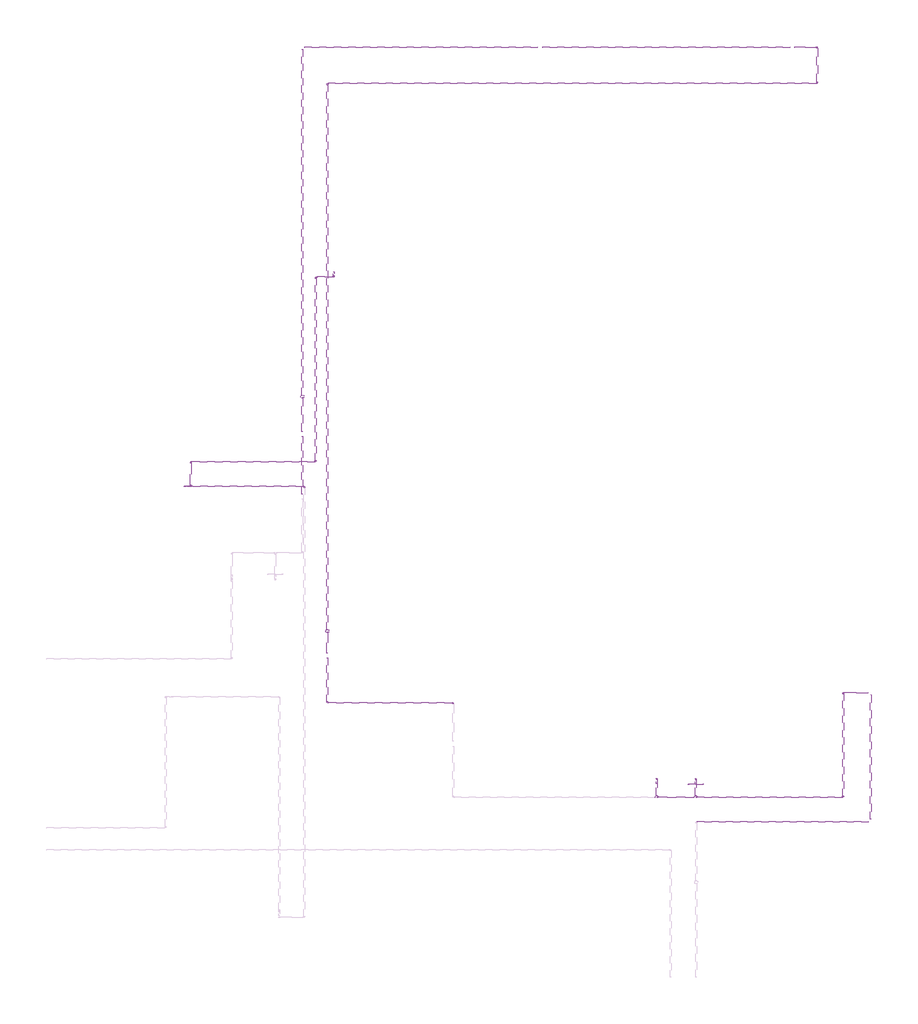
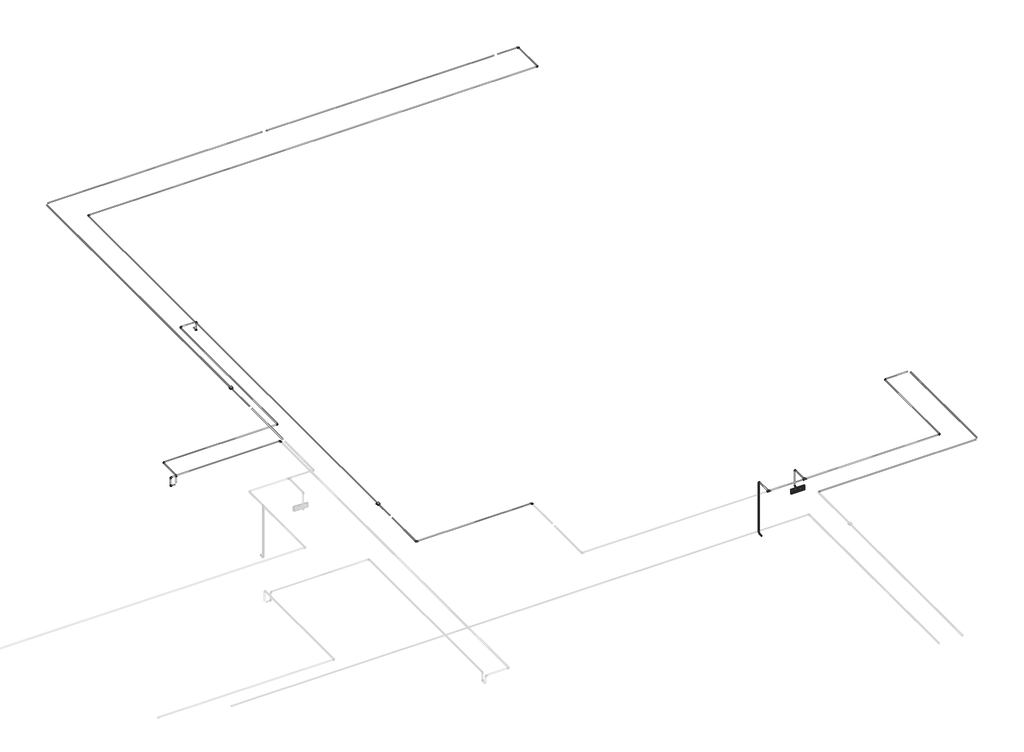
# One storey, part 6 of 6: 35 cable carrier segments, 23 cable carrier fittings, 3 alarms.
"""IFC4 building model written with IfcOpenShell, lengths in millimetres."""

from ifc_helpers import new_model, si_unit, point, frame, frame_2d, origin, place, context, project, spatial, circle_curve, trimmed, segment, composite_curve, outline, extrude, transform, mapped, element, save
from components import alarm_4b7e8fd8, alarm_a2247946, cable_carrier_fitting_69f1a801, cable_carrier_fitting_4e46bb0d, cable_carrier_fitting_7a8e629b, cable_carrier_fitting_8fd13dfc

model = new_model("IFC4")

# Units and contexts
model_context = context("Model", 3, world=origin())
ifc_project = project(units=[si_unit("LENGTHUNIT", "METRE", prefix="MILLI")], contexts=[model_context])

# Site, building, storey
site = spatial("IfcSite", under=ifc_project)
building = spatial("IfcBuilding", under=site)
storey = spatial("IfcBuildingStorey", under=building, Name="Подвальный этаж", Elevation=-3000.0)

# Alarms
placement = place(None, origin())
alarm_shape = alarm_4b7e8fd8(model_context)
element("IfcAlarm", 1, ObjectType="RBZ_Оповещатель_Световой_Рубеж_ОПОП1-R3(грань) : ОПОП 1-R3 \"Выход\"", at=placement, inside=storey, context=model_context, shape_type="MappedRepresentation", body=[
    mapped(alarm_shape, transform((15620.1759979, 2464.6370105, -700.0), x_axis=(1.0, 0.0, 0.0), y_axis=(0.0, 0.0, 1.0), z_axis=(0.0, -1.0, 0.0))),
])
alarm_2_shape = alarm_a2247946(model_context)
element("IfcAlarm", 2, ObjectType="RBZ_ИзоляторШлейфа_Рубеж_ИЗ-1_прот.R3(плоскость) : ИЗ-1 прот.R3", at=placement, inside=storey, context=model_context, shape_type="MappedRepresentation", body=[
    mapped(alarm_2_shape, transform((7747.6759979, 10214.6370105, -299.95), x_axis=(1.0, 0.0, 0.0), y_axis=(0.0, 1.0, 0.0), z_axis=(0.0, 0.0, 1.0))),
])
element("IfcAlarm", 3, ObjectType="RBZ_ИзоляторШлейфа_Рубеж_ИЗ-1_прот.R3(плоскость) : ИЗ-1 прот.R3", at=placement, inside=storey, context=model_context, shape_type="MappedRepresentation", body=[
    mapped(alarm_2_shape, transform((8247.6759979, 5524.6370105, -299.95), x_axis=(1.0, 0.0, 0.0), y_axis=(0.0, 1.0, 0.0), z_axis=(0.0, 0.0, 1.0))),
])

# Cable carrier fittings
cable_carrier_fitting_shape = cable_carrier_fitting_69f1a801(model_context)
element("IfcCableCarrierFitting", 4, ObjectType="ADSK_Поворот_Минимальный размер : Неспецифицируемый", at=placement, inside=storey, context=model_context, shape_type="MappedRepresentation", body=[
    mapped(cable_carrier_fitting_shape, transform((15620.1759979, 2561.8368161, -700.0), x_axis=(0.0, 1.0, 0.0), y_axis=(0.0, 0.0, 1.0), z_axis=(1.0, 0.0, 0.0))),
])
element("IfcCableCarrierFitting", 5, ObjectType="ADSK_Поворот_Минимальный размер : Неспецифицируемый", at=placement, inside=storey, context=model_context, shape_type="MappedRepresentation", body=[
    mapped(cable_carrier_fitting_shape, transform((15620.1759979, 2561.8368161, -310.7), x_axis=(0.0, 0.0, 1.0), y_axis=(0.0, -1.0, 0.0), z_axis=(1.0, 0.0, 0.0))),
])
element("IfcCableCarrierFitting", 6, ObjectType="ADSK_Поворот_Минимальный размер : Неспецифицируемый", at=placement, inside=storey, context=model_context, shape_type="MappedRepresentation", body=[
    mapped(cable_carrier_fitting_shape, transform((14835.1759979, 2561.8368161, -1500.0), x_axis=(0.0, 1.0, 0.0), y_axis=(0.0, 0.0, 1.0), z_axis=(1.0, 0.0, 0.0))),
])
element("IfcCableCarrierFitting", 7, ObjectType="ADSK_Поворот_Минимальный размер : Неспецифицируемый", at=placement, inside=storey, context=model_context, shape_type="MappedRepresentation", body=[
    mapped(cable_carrier_fitting_shape, transform((14835.1759979, 2561.8368161, -310.7), x_axis=(0.0, 0.0, 1.0), y_axis=(0.0, -1.0, 0.0), z_axis=(1.0, 0.0, 0.0))),
])
element("IfcCableCarrierFitting", 8, ObjectType="ADSK_Поворот_Минимальный размер : Неспецифицируемый", at=placement, inside=storey, context=model_context, shape_type="MappedRepresentation", body=[
    mapped(cable_carrier_fitting_shape, transform((18571.1759979, 2198.2505803, -310.7), x_axis=(1.0, 0.0, 0.0), y_axis=(0.0, 1.0, 0.0), z_axis=(0.0, 0.0, 1.0))),
])
element("IfcCableCarrierFitting", 9, ObjectType="ADSK_Поворот_Минимальный размер : Неспецифицируемый", at=placement, inside=storey, context=model_context, shape_type="MappedRepresentation", body=[
    mapped(cable_carrier_fitting_shape, transform((18571.1759979, 4289.8880941, -310.7), x_axis=(-1.0, 0.0, 0.0), y_axis=(0.0, -1.0, 0.0), z_axis=(0.0, 0.0, 1.0))),
])
element("IfcCableCarrierFitting", 10, ObjectType="ADSK_Поворот_Минимальный размер : Неспецифицируемый", at=placement, inside=storey, context=model_context, shape_type="MappedRepresentation", body=[
    mapped(cable_carrier_fitting_shape, transform((10767.6759979, 4082.6600068, -310.7), x_axis=(0.0, 1.0, 0.0), y_axis=(-1.0, 0.0, 0.0), z_axis=(0.0, 0.0, 1.0))),
])
element("IfcCableCarrierFitting", 11, ObjectType="ADSK_Поворот_Минимальный размер : Неспецифицируемый", at=placement, inside=storey, context=model_context, shape_type="MappedRepresentation", body=[
    mapped(cable_carrier_fitting_shape, transform((8247.6759979, 4082.6600068, -310.7), x_axis=(0.0, -1.0, 0.0), y_axis=(1.0, 0.0, 0.0), z_axis=(0.0, 0.0, 1.0))),
])
element("IfcCableCarrierFitting", 12, ObjectType="ADSK_Поворот_Минимальный размер : Неспецифицируемый", at=placement, inside=storey, context=model_context, shape_type="MappedRepresentation", body=[
    mapped(cable_carrier_fitting_shape, transform((8247.6759979, 16475.6600068, -310.7), x_axis=(-1.0, 0.0, 0.0), y_axis=(0.0, -1.0, 0.0), z_axis=(0.0, 0.0, 1.0))),
])
element("IfcCableCarrierFitting", 13, ObjectType="ADSK_Поворот_Минимальный размер : Неспецифицируемый", at=placement, inside=storey, context=model_context, shape_type="MappedRepresentation", body=[
    mapped(cable_carrier_fitting_shape, transform((18047.6759979, 17204.6370105, -310.7), x_axis=(0.0, 1.0, 0.0), y_axis=(-1.0, 0.0, 0.0), z_axis=(0.0, 0.0, 1.0))),
])
element("IfcCableCarrierFitting", 14, ObjectType="ADSK_Поворот_Минимальный размер : Неспецифицируемый", at=placement, inside=storey, context=model_context, shape_type="MappedRepresentation", body=[
    mapped(cable_carrier_fitting_shape, transform((18047.6759979, 16475.6600068, -310.7), x_axis=(1.0, 0.0, 0.0), y_axis=(0.0, 1.0, 0.0), z_axis=(0.0, 0.0, 1.0))),
])
element("IfcCableCarrierFitting", 15, ObjectType="ADSK_Поворот_Минимальный размер : Неспецифицируемый", at=placement, inside=storey, context=model_context, shape_type="MappedRepresentation", body=[
    mapped(cable_carrier_fitting_shape, transform((5390.4761923, 8412.1370105, -655.9740066), x_axis=(-1.0, 0.0, 0.0), y_axis=(0.0, 0.0, 1.0), z_axis=(0.0, 1.0, 0.0))),
])
element("IfcCableCarrierFitting", 16, ObjectType="ADSK_Поворот_Минимальный размер : Неспецифицируемый", at=placement, inside=storey, context=model_context, shape_type="MappedRepresentation", body=[
    mapped(cable_carrier_fitting_shape, transform((7787.6759979, 8412.1370105, -458.0), x_axis=(0.0, 1.0, 0.0), y_axis=(-1.0, 0.0, 0.0), z_axis=(0.0, 0.0, 1.0))),
])
element("IfcCableCarrierFitting", 17, ObjectType="ADSK_Поворот_Минимальный размер : Неспецифицируемый", at=placement, inside=storey, context=model_context, shape_type="MappedRepresentation", body=[
    mapped(cable_carrier_fitting_shape, transform((5390.4761923, 8412.1370105, -458.0), x_axis=(0.0, 0.0, 1.0), y_axis=(1.0, 0.0, 0.0), z_axis=(0.0, 1.0, 0.0))),
])
element("IfcCableCarrierFitting", 18, ObjectType="ADSK_Поворот_Минимальный размер : Неспецифицируемый", at=placement, inside=storey, context=model_context, shape_type="MappedRepresentation", body=[
    mapped(cable_carrier_fitting_shape, transform((5518.3274252, 8412.1370105, -458.0), x_axis=(0.0, 0.0, 1.0), y_axis=(0.0, 1.0, 0.0), z_axis=(-1.0, 0.0, 0.0))),
])
element("IfcCableCarrierFitting", 19, ObjectType="ADSK_Поворот_Минимальный размер : Неспецифицируемый", at=placement, inside=storey, context=model_context, shape_type="MappedRepresentation", body=[
    mapped(cable_carrier_fitting_shape, transform((8017.6759979, 8912.1370105, -458.0), x_axis=(1.0, 0.0, 0.0), y_axis=(0.0, 1.0, 0.0), z_axis=(0.0, 0.0, 1.0))),
])
element("IfcCableCarrierFitting", 20, ObjectType="ADSK_Поворот_Минимальный размер : Неспецифицируемый", at=placement, inside=storey, context=model_context, shape_type="MappedRepresentation", body=[
    mapped(cable_carrier_fitting_shape, transform((5518.3274252, 8912.1370105, -458.0), x_axis=(-1.0, 0.0, 0.0), y_axis=(0.0, -1.0, 0.0), z_axis=(0.0, 0.0, 1.0))),
])
element("IfcCableCarrierFitting", 21, ObjectType="ADSK_Поворот_Минимальный размер : Неспецифицируемый", at=placement, inside=storey, context=model_context, shape_type="MappedRepresentation", body=[
    mapped(cable_carrier_fitting_shape, transform((8377.6759979, 12607.4372049, -655.9740066), x_axis=(0.0, -1.0, 0.0), y_axis=(0.0, 0.0, 1.0), z_axis=(-1.0, 0.0, 0.0))),
])
element("IfcCableCarrierFitting", 22, ObjectType="ADSK_Поворот_Минимальный размер : Неспецифицируемый", at=placement, inside=storey, context=model_context, shape_type="MappedRepresentation", body=[
    mapped(cable_carrier_fitting_shape, transform((8377.6759979, 12607.4372049, -458.0), x_axis=(0.0, 0.0, 1.0), y_axis=(-1.0, 0.0, 0.0), z_axis=(0.0, -1.0, 0.0))),
])
cable_carrier_fitting_2_shape = cable_carrier_fitting_4e46bb0d(model_context)
element("IfcCableCarrierFitting", 23, ObjectType="ADSK_Поворот_Минимальный размер : Неспецифицируемый", at=placement, inside=storey, context=model_context, shape_type="MappedRepresentation", body=[
    mapped(cable_carrier_fitting_2_shape, transform((8037.6759979, 12607.4372049, -458.0), x_axis=(-1.0, 0.0, 0.0), y_axis=(0.0, -1.0, 0.0), z_axis=(0.0, 0.0, 1.0))),
])
cable_carrier_fitting_3_shape = cable_carrier_fitting_7a8e629b(model_context)
element("IfcCableCarrierFitting", 24, ObjectType="ADSK_Поворот_Минимальный размер : Неспецифицируемый", at=placement, inside=storey, context=model_context, shape_type="MappedRepresentation", body=[
    mapped(cable_carrier_fitting_3_shape, transform((8017.6759979, 12587.5698727, -458.0), x_axis=(-0.7094559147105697, -0.7047498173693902, 0.0), y_axis=(0.7047498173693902, -0.7094559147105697, 0.0), z_axis=(0.0, 0.0, 1.0))),
])
cable_carrier_fitting_4_shape = cable_carrier_fitting_8fd13dfc(model_context)
element("IfcCableCarrierFitting", 25, ObjectType="ADSK_Тройник : ПВХ", at=placement, inside=storey, context=model_context, shape_type="MappedRepresentation", body=[
    mapped(cable_carrier_fitting_4_shape, transform((15620.1759979, 2198.2505803, -310.7), x_axis=(-1.0, 0.0, 0.0), y_axis=(0.0, -1.0, 0.0), z_axis=(0.0, 0.0, 1.0))),
])
element("IfcCableCarrierFitting", 26, ObjectType="ADSK_Тройник : ПВХ", at=placement, inside=storey, context=model_context, shape_type="MappedRepresentation", body=[
    mapped(cable_carrier_fitting_4_shape, transform((14835.1759979, 2198.2505803, -310.7), x_axis=(-1.0, 0.0, 0.0), y_axis=(0.0, -1.0, 0.0), z_axis=(0.0, 0.0, 1.0))),
])

# Cable carrier segments
element("IfcCableCarrierSegment", 27, ObjectType="Гофрированная труба", at=placement, inside=storey, context=model_context, shape_type="SweptSolid", body=[
    extrude(outline(composite_curve([segment(trimmed(circle_curve(frame_2d((1703.2505803, -310.7)), 10.0), [point((1693.2505803, -310.7))], [point((1703.2505803, -300.7))], False, "CARTESIAN"), True, "CONTINUOUS"), segment(trimmed(circle_curve(frame_2d((1703.2505803, -310.7)), 10.0), [point((1703.2505803, -300.7))], [point((1713.2505803, -310.7))], False, "CARTESIAN"), True, "CONTINUOUS"), segment(trimmed(circle_curve(frame_2d((1703.2505803, -310.7)), 10.0), [point((1713.2505803, -310.7))], [point((1703.2505803, -320.7))], False, "CARTESIAN"), True, "CONTINUOUS"), segment(trimmed(circle_curve(frame_2d((1703.2505803, -310.7)), 10.0), [point((1703.2505803, -320.7))], [point((1693.2505803, -310.7))], False, "CARTESIAN"), True, "CONTINUOUS")], self_intersect=False)), frame((15650.9732726, 0.0, 0.0), z_axis=(1.0, 0.0, 0.0), x_axis=(0.0, 1.0, 0.0)), (0.0, 0.0, 1.0), 3420.2027253),
])
element("IfcCableCarrierSegment", 28, ObjectType="Гофрированная труба", at=placement, inside=storey, context=model_context, shape_type="SweptSolid", body=[
    extrude(outline(composite_curve([segment(trimmed(circle_curve(frame_2d((-310.7, 19117.6759979)), 10.0), [point((-310.7, 19107.6759979))], [point((-320.7, 19117.6759979))], False, "CARTESIAN"), True, "CONTINUOUS"), segment(trimmed(circle_curve(frame_2d((-310.7, 19117.6759979)), 10.0), [point((-320.7, 19117.6759979))], [point((-310.7, 19127.6759979))], False, "CARTESIAN"), True, "CONTINUOUS"), segment(trimmed(circle_curve(frame_2d((-310.7, 19117.6759979)), 10.0), [point((-310.7, 19127.6759979))], [point((-300.7, 19117.6759979))], False, "CARTESIAN"), True, "CONTINUOUS"), segment(trimmed(circle_curve(frame_2d((-310.7, 19117.6759979)), 10.0), [point((-300.7, 19117.6759979))], [point((-310.7, 19107.6759979))], False, "CARTESIAN"), True, "CONTINUOUS")], self_intersect=False)), frame((0.0, 1749.7505803, 0.0), z_axis=(0.0, 1.0, 0.0), x_axis=(0.0, 0.0, 1.0)), (0.0, 0.0, 1.0), 2493.6375137),
])
element("IfcCableCarrierSegment", 29, ObjectType="Гофрированная труба", at=placement, inside=storey, context=model_context, shape_type="SweptSolid", body=[
    extrude(outline(composite_curve([segment(trimmed(circle_curve(frame_2d((4289.8880941, -310.7)), 10.0), [point((4279.8880941, -310.7))], [point((4289.8880941, -300.7))], False, "CARTESIAN"), True, "CONTINUOUS"), segment(trimmed(circle_curve(frame_2d((4289.8880941, -310.7)), 10.0), [point((4289.8880941, -300.7))], [point((4299.8880941, -310.7))], False, "CARTESIAN"), True, "CONTINUOUS"), segment(trimmed(circle_curve(frame_2d((4289.8880941, -310.7)), 10.0), [point((4299.8880941, -310.7))], [point((4289.8880941, -320.7))], False, "CARTESIAN"), True, "CONTINUOUS"), segment(trimmed(circle_curve(frame_2d((4289.8880941, -310.7)), 10.0), [point((4289.8880941, -320.7))], [point((4279.8880941, -310.7))], False, "CARTESIAN"), True, "CONTINUOUS")], self_intersect=False)), frame((18592.1759979, 0.0, 0.0), z_axis=(1.0, 0.0, 0.0), x_axis=(0.0, 1.0, 0.0)), (0.0, 0.0, 1.0), 479.0),
])
element("IfcCableCarrierSegment", 30, ObjectType="Гофрированная труба", at=placement, inside=storey, context=model_context, shape_type="SweptSolid", body=[
    extrude(outline(composite_curve([segment(trimmed(circle_curve(frame_2d((-310.7, 18571.1759979)), 10.0), [point((-310.7, 18581.1759979))], [point((-300.7, 18571.1759979))], False, "CARTESIAN"), True, "CONTINUOUS"), segment(trimmed(circle_curve(frame_2d((-310.7, 18571.1759979)), 10.0), [point((-300.7, 18571.1759979))], [point((-310.7, 18561.1759979))], False, "CARTESIAN"), True, "CONTINUOUS"), segment(trimmed(circle_curve(frame_2d((-310.7, 18571.1759979)), 10.0), [point((-310.7, 18561.1759979))], [point((-320.7, 18571.1759979))], False, "CARTESIAN"), True, "CONTINUOUS"), segment(trimmed(circle_curve(frame_2d((-310.7, 18571.1759979)), 10.0), [point((-320.7, 18571.1759979))], [point((-310.7, 18581.1759979))], False, "CARTESIAN"), True, "CONTINUOUS")], self_intersect=False)), frame((0.0, 2219.2505803, 0.0), z_axis=(0.0, 1.0, 0.0), x_axis=(0.0, 0.0, 1.0)), (0.0, 0.0, 1.0), 2049.6375137),
])
element("IfcCableCarrierSegment", 31, ObjectType="Гофрированная труба", at=placement, inside=storey, context=model_context, shape_type="SweptSolid", body=[
    extrude(outline(composite_curve([segment(trimmed(circle_curve(frame_2d((-310.7, 8247.6759979)), 10.0), [point((-310.7, 8257.6759979))], [point((-300.7, 8247.6759979))], False, "CARTESIAN"), True, "CONTINUOUS"), segment(trimmed(circle_curve(frame_2d((-310.7, 8247.6759979)), 10.0), [point((-300.7, 8247.6759979))], [point((-310.7, 8237.6759979))], False, "CARTESIAN"), True, "CONTINUOUS"), segment(trimmed(circle_curve(frame_2d((-310.7, 8247.6759979)), 10.0), [point((-310.7, 8237.6759979))], [point((-320.7, 8247.6759979))], False, "CARTESIAN"), True, "CONTINUOUS"), segment(trimmed(circle_curve(frame_2d((-310.7, 8247.6759979)), 10.0), [point((-320.7, 8247.6759979))], [point((-310.7, 8257.6759979))], False, "CARTESIAN"), True, "CONTINUOUS")], self_intersect=False)), frame((0.0, 4103.6600068, 0.0), z_axis=(0.0, 1.0, 0.0), x_axis=(0.0, 0.0, 1.0)), (0.0, 0.0, 1.0), 879.0),
])
element("IfcCableCarrierSegment", 32, ObjectType="Гофрированная труба", at=placement, inside=storey, context=model_context, shape_type="SweptSolid", body=[
    extrude(outline(composite_curve([segment(trimmed(circle_curve(frame_2d((4082.6600068, -310.7)), 10.0), [point((4092.6600068, -310.7))], [point((4082.6600068, -320.7))], False, "CARTESIAN"), True, "CONTINUOUS"), segment(trimmed(circle_curve(frame_2d((4082.6600068, -310.7)), 10.0), [point((4082.6600068, -320.7))], [point((4072.6600068, -310.7))], False, "CARTESIAN"), True, "CONTINUOUS"), segment(trimmed(circle_curve(frame_2d((4082.6600068, -310.7)), 10.0), [point((4072.6600068, -310.7))], [point((4082.6600068, -300.7))], False, "CARTESIAN"), True, "CONTINUOUS"), segment(trimmed(circle_curve(frame_2d((4082.6600068, -310.7)), 10.0), [point((4082.6600068, -300.7))], [point((4092.6600068, -310.7))], False, "CARTESIAN"), True, "CONTINUOUS")], self_intersect=False)), frame((8268.6759979, 0.0, 0.0), z_axis=(1.0, 0.0, 0.0), x_axis=(0.0, 1.0, 0.0)), (0.0, 0.0, 1.0), 2478.0),
])
element("IfcCableCarrierSegment", 33, ObjectType="Гофрированная труба", at=placement, inside=storey, context=model_context, shape_type="SweptSolid", body=[
    extrude(outline(composite_curve([segment(trimmed(circle_curve(frame_2d((-310.7, 8247.6759979)), 10.0), [point((-310.7, 8237.6759979))], [point((-320.7, 8247.6759979))], False, "CARTESIAN"), True, "CONTINUOUS"), segment(trimmed(circle_curve(frame_2d((-310.7, 8247.6759979)), 10.0), [point((-320.7, 8247.6759979))], [point((-310.7, 8257.6759979))], False, "CARTESIAN"), True, "CONTINUOUS"), segment(trimmed(circle_curve(frame_2d((-310.7, 8247.6759979)), 10.0), [point((-310.7, 8257.6759979))], [point((-300.7, 8247.6759979))], False, "CARTESIAN"), True, "CONTINUOUS"), segment(trimmed(circle_curve(frame_2d((-310.7, 8247.6759979)), 10.0), [point((-300.7, 8247.6759979))], [point((-310.7, 8237.6759979))], False, "CARTESIAN"), True, "CONTINUOUS")], self_intersect=False)), frame((0.0, 5550.6370105, 0.0), z_axis=(0.0, 1.0, 0.0), x_axis=(0.0, 0.0, 1.0)), (0.0, 0.0, 1.0), 10904.0229963),
])
element("IfcCableCarrierSegment", 34, ObjectType="Гофрированная труба", at=placement, inside=storey, context=model_context, shape_type="SweptSolid", body=[
    extrude(outline(composite_curve([segment(trimmed(circle_curve(frame_2d((16475.6600068, -310.7)), 10.0), [point((16465.6600068, -310.7))], [point((16475.6600068, -300.7))], False, "CARTESIAN"), True, "CONTINUOUS"), segment(trimmed(circle_curve(frame_2d((16475.6600068, -310.7)), 10.0), [point((16475.6600068, -300.7))], [point((16485.6600068, -310.7))], False, "CARTESIAN"), True, "CONTINUOUS"), segment(trimmed(circle_curve(frame_2d((16475.6600068, -310.7)), 10.0), [point((16485.6600068, -310.7))], [point((16475.6600068, -320.7))], False, "CARTESIAN"), True, "CONTINUOUS"), segment(trimmed(circle_curve(frame_2d((16475.6600068, -310.7)), 10.0), [point((16475.6600068, -320.7))], [point((16465.6600068, -310.7))], False, "CARTESIAN"), True, "CONTINUOUS")], self_intersect=False)), frame((8268.6759979, 0.0, 0.0), z_axis=(1.0, 0.0, 0.0), x_axis=(0.0, 1.0, 0.0)), (0.0, 0.0, 1.0), 9758.0),
])
element("IfcCableCarrierSegment", 35, ObjectType="Гофрированная труба", at=placement, inside=storey, context=model_context, shape_type="SweptSolid", body=[
    extrude(outline(composite_curve([segment(trimmed(circle_curve(frame_2d((-310.7, 18047.6759979)), 10.0), [point((-310.7, 18037.6759979))], [point((-320.7, 18047.6759979))], False, "CARTESIAN"), True, "CONTINUOUS"), segment(trimmed(circle_curve(frame_2d((-310.7, 18047.6759979)), 10.0), [point((-320.7, 18047.6759979))], [point((-310.7, 18057.6759979))], False, "CARTESIAN"), True, "CONTINUOUS"), segment(trimmed(circle_curve(frame_2d((-310.7, 18047.6759979)), 10.0), [point((-310.7, 18057.6759979))], [point((-300.7, 18047.6759979))], False, "CARTESIAN"), True, "CONTINUOUS"), segment(trimmed(circle_curve(frame_2d((-310.7, 18047.6759979)), 10.0), [point((-300.7, 18047.6759979))], [point((-310.7, 18037.6759979))], False, "CARTESIAN"), True, "CONTINUOUS")], self_intersect=False)), frame((0.0, 16496.6600068, 0.0), z_axis=(0.0, 1.0, 0.0), x_axis=(0.0, 0.0, 1.0)), (0.0, 0.0, 1.0), 686.9770037),
])
element("IfcCableCarrierSegment", 36, ObjectType="Гофрированная труба", at=placement, inside=storey, context=model_context, shape_type="SweptSolid", body=[
    extrude(outline(composite_curve([segment(trimmed(circle_curve(frame_2d((17204.6370105, -310.7)), 10.0), [point((17214.6370105, -310.7))], [point((17204.6370105, -320.7))], False, "CARTESIAN"), True, "CONTINUOUS"), segment(trimmed(circle_curve(frame_2d((17204.6370105, -310.7)), 10.0), [point((17204.6370105, -320.7))], [point((17194.6370105, -310.7))], False, "CARTESIAN"), True, "CONTINUOUS"), segment(trimmed(circle_curve(frame_2d((17204.6370105, -310.7)), 10.0), [point((17194.6370105, -310.7))], [point((17204.6370105, -300.7))], False, "CARTESIAN"), True, "CONTINUOUS"), segment(trimmed(circle_curve(frame_2d((17204.6370105, -310.7)), 10.0), [point((17204.6370105, -300.7))], [point((17214.6370105, -310.7))], False, "CARTESIAN"), True, "CONTINUOUS")], self_intersect=False)), frame((17604.1759979, 0.0, 0.0), z_axis=(1.0, 0.0, 0.0), x_axis=(0.0, 1.0, 0.0)), (0.0, 0.0, 1.0), 422.5),
])
element("IfcCableCarrierSegment", 37, ObjectType="Гофрированная труба", at=placement, inside=storey, context=model_context, shape_type="SweptSolid", body=[
    extrude(outline(composite_curve([segment(trimmed(circle_curve(frame_2d((17204.6370105, -310.7)), 10.0), [point((17194.6370105, -310.7))], [point((17204.6370105, -300.7))], False, "CARTESIAN"), True, "CONTINUOUS"), segment(trimmed(circle_curve(frame_2d((17204.6370105, -310.7)), 10.0), [point((17204.6370105, -300.7))], [point((17214.6370105, -310.7))], False, "CARTESIAN"), True, "CONTINUOUS"), segment(trimmed(circle_curve(frame_2d((17204.6370105, -310.7)), 10.0), [point((17214.6370105, -310.7))], [point((17204.6370105, -320.7))], False, "CARTESIAN"), True, "CONTINUOUS"), segment(trimmed(circle_curve(frame_2d((17204.6370105, -310.7)), 10.0), [point((17204.6370105, -320.7))], [point((17194.6370105, -310.7))], False, "CARTESIAN"), True, "CONTINUOUS")], self_intersect=False)), frame((12554.1759979, 0.0, 0.0), z_axis=(1.0, 0.0, 0.0), x_axis=(0.0, 1.0, 0.0)), (0.0, 0.0, 1.0), 4957.0),
])
element("IfcCableCarrierSegment", 38, ObjectType="Гофрированная труба", at=placement, inside=storey, context=model_context, shape_type="SweptSolid", body=[
    extrude(outline(composite_curve([segment(trimmed(circle_curve(frame_2d((17204.6370105, -310.7)), 10.0), [point((17194.6370105, -310.7))], [point((17204.6370105, -300.7))], False, "CARTESIAN"), True, "CONTINUOUS"), segment(trimmed(circle_curve(frame_2d((17204.6370105, -310.7)), 10.0), [point((17204.6370105, -300.7))], [point((17214.6370105, -310.7))], False, "CARTESIAN"), True, "CONTINUOUS"), segment(trimmed(circle_curve(frame_2d((17204.6370105, -310.7)), 10.0), [point((17214.6370105, -310.7))], [point((17204.6370105, -320.7))], False, "CARTESIAN"), True, "CONTINUOUS"), segment(trimmed(circle_curve(frame_2d((17204.6370105, -310.7)), 10.0), [point((17204.6370105, -320.7))], [point((17194.6370105, -310.7))], False, "CARTESIAN"), True, "CONTINUOUS")], self_intersect=False)), frame((7794.1759979, 0.0, 0.0), z_axis=(1.0, 0.0, 0.0), x_axis=(0.0, 1.0, 0.0)), (0.0, 0.0, 1.0), 4667.0),
])
element("IfcCableCarrierSegment", 39, ObjectType="Гофрированная труба", at=placement, inside=storey, context=model_context, shape_type="SweptSolid", body=[
    extrude(outline(composite_curve([segment(trimmed(circle_curve(frame_2d((-310.7, 7747.6759979)), 10.0), [point((-310.7, 7757.6759979))], [point((-300.7, 7747.6759979))], False, "CARTESIAN"), True, "CONTINUOUS"), segment(trimmed(circle_curve(frame_2d((-310.7, 7747.6759979)), 10.0), [point((-300.7, 7747.6759979))], [point((-310.7, 7737.6759979))], False, "CARTESIAN"), True, "CONTINUOUS"), segment(trimmed(circle_curve(frame_2d((-310.7, 7747.6759979)), 10.0), [point((-310.7, 7737.6759979))], [point((-320.7, 7747.6759979))], False, "CARTESIAN"), True, "CONTINUOUS"), segment(trimmed(circle_curve(frame_2d((-310.7, 7747.6759979)), 10.0), [point((-320.7, 7747.6759979))], [point((-310.7, 7757.6759979))], False, "CARTESIAN"), True, "CONTINUOUS")], self_intersect=False)), frame((0.0, 10240.6370105, 0.0), z_axis=(0.0, 1.0, 0.0), x_axis=(0.0, 0.0, 1.0)), (0.0, 0.0, 1.0), 6917.5),
])
element("IfcCableCarrierSegment", 40, ObjectType="Гофрированная труба", at=placement, inside=storey, context=model_context, shape_type="SweptSolid", body=[
    extrude(outline(composite_curve([segment(trimmed(circle_curve(frame_2d((-310.7, 7747.6759979)), 10.0), [point((-310.7, 7757.6759979))], [point((-300.7, 7747.6759979))], False, "CARTESIAN"), True, "CONTINUOUS"), segment(trimmed(circle_curve(frame_2d((-310.7, 7747.6759979)), 10.0), [point((-300.7, 7747.6759979))], [point((-310.7, 7737.6759979))], False, "CARTESIAN"), True, "CONTINUOUS"), segment(trimmed(circle_curve(frame_2d((-310.7, 7747.6759979)), 10.0), [point((-310.7, 7737.6759979))], [point((-320.7, 7747.6759979))], False, "CARTESIAN"), True, "CONTINUOUS"), segment(trimmed(circle_curve(frame_2d((-310.7, 7747.6759979)), 10.0), [point((-320.7, 7747.6759979))], [point((-310.7, 7757.6759979))], False, "CARTESIAN"), True, "CONTINUOUS")], self_intersect=False)), frame((0.0, 9511.1370105, 0.0), z_axis=(0.0, 1.0, 0.0), x_axis=(0.0, 0.0, 1.0)), (0.0, 0.0, 1.0), 677.5),
])
element("IfcCableCarrierSegment", 41, ObjectType="Гофрированная труба", at=placement, inside=storey, context=model_context, shape_type="SweptSolid", body=[
    extrude(outline(composite_curve([segment(trimmed(circle_curve(frame_2d((-310.7, 7747.6759979)), 10.0), [point((-310.7, 7757.6759979))], [point((-300.7, 7747.6759979))], False, "CARTESIAN"), True, "CONTINUOUS"), segment(trimmed(circle_curve(frame_2d((-310.7, 7747.6759979)), 10.0), [point((-300.7, 7747.6759979))], [point((-310.7, 7737.6759979))], False, "CARTESIAN"), True, "CONTINUOUS"), segment(trimmed(circle_curve(frame_2d((-310.7, 7747.6759979)), 10.0), [point((-310.7, 7737.6759979))], [point((-320.7, 7747.6759979))], False, "CARTESIAN"), True, "CONTINUOUS"), segment(trimmed(circle_curve(frame_2d((-310.7, 7747.6759979)), 10.0), [point((-320.7, 7747.6759979))], [point((-310.7, 7757.6759979))], False, "CARTESIAN"), True, "CONTINUOUS")], self_intersect=False)), frame((0.0, 8258.6370105, 0.0), z_axis=(0.0, 1.0, 0.0), x_axis=(0.0, 0.0, 1.0)), (0.0, 0.0, 1.0), 1159.5),
])
element("IfcCableCarrierSegment", 42, ObjectType="Гофрированная труба", at=placement, inside=storey, context=model_context, shape_type="SweptSolid", body=[
    extrude(outline(composite_curve([segment(trimmed(circle_curve(frame_2d((-310.7, 8247.6759979)), 10.0), [point((-310.7, 8257.6759979))], [point((-300.7, 8247.6759979))], False, "CARTESIAN"), True, "CONTINUOUS"), segment(trimmed(circle_curve(frame_2d((-310.7, 8247.6759979)), 10.0), [point((-300.7, 8247.6759979))], [point((-310.7, 8237.6759979))], False, "CARTESIAN"), True, "CONTINUOUS"), segment(trimmed(circle_curve(frame_2d((-310.7, 8247.6759979)), 10.0), [point((-310.7, 8237.6759979))], [point((-320.7, 8247.6759979))], False, "CARTESIAN"), True, "CONTINUOUS"), segment(trimmed(circle_curve(frame_2d((-310.7, 8247.6759979)), 10.0), [point((-320.7, 8247.6759979))], [point((-310.7, 8257.6759979))], False, "CARTESIAN"), True, "CONTINUOUS")], self_intersect=False)), frame((0.0, 5075.6600068, 0.0), z_axis=(0.0, 1.0, 0.0), x_axis=(0.0, 0.0, 1.0)), (0.0, 0.0, 1.0), 422.9770037),
])
element("IfcCableCarrierSegment", 43, ObjectType="Гофрированная труба", at=placement, inside=storey, context=model_context, shape_type="SweptSolid", body=[
    extrude(outline(composite_curve([segment(trimmed(circle_curve(frame_2d((-310.7, 15620.1759979)), 10.0), [point((-310.7, 15610.1759979))], [point((-320.7, 15620.1759979))], False, "CARTESIAN"), True, "CONTINUOUS"), segment(trimmed(circle_curve(frame_2d((-310.7, 15620.1759979)), 10.0), [point((-320.7, 15620.1759979))], [point((-310.7, 15630.1759979))], False, "CARTESIAN"), True, "CONTINUOUS"), segment(trimmed(circle_curve(frame_2d((-310.7, 15620.1759979)), 10.0), [point((-310.7, 15630.1759979))], [point((-300.7, 15620.1759979))], False, "CARTESIAN"), True, "CONTINUOUS"), segment(trimmed(circle_curve(frame_2d((-310.7, 15620.1759979)), 10.0), [point((-300.7, 15620.1759979))], [point((-310.7, 15610.1759979))], False, "CARTESIAN"), True, "CONTINUOUS")], self_intersect=False)), frame((0.0, 2228.2505803, 0.0), z_axis=(0.0, 1.0, 0.0), x_axis=(0.0, 0.0, 1.0)), (0.0, 0.0, 1.0), 312.5862358),
])
element("IfcCableCarrierSegment", 44, ObjectType="Гофрированная труба", at=placement, inside=storey, context=model_context, shape_type="SweptSolid", body=[
    extrude(outline(composite_curve([segment(trimmed(circle_curve(frame_2d((-700.0, 15620.1759979)), 10.0), [point((-700.0, 15630.1759979))], [point((-690.0, 15620.1759979))], False, "CARTESIAN"), True, "CONTINUOUS"), segment(trimmed(circle_curve(frame_2d((-700.0, 15620.1759979)), 10.0), [point((-690.0, 15620.1759979))], [point((-700.0, 15610.1759979))], False, "CARTESIAN"), True, "CONTINUOUS"), segment(trimmed(circle_curve(frame_2d((-700.0, 15620.1759979)), 10.0), [point((-700.0, 15610.1759979))], [point((-710.0, 15620.1759979))], False, "CARTESIAN"), True, "CONTINUOUS"), segment(trimmed(circle_curve(frame_2d((-700.0, 15620.1759979)), 10.0), [point((-710.0, 15620.1759979))], [point((-700.0, 15630.1759979))], False, "CARTESIAN"), True, "CONTINUOUS")], self_intersect=False)), frame((0.0, 2464.6370105, 0.0), z_axis=(0.0, 1.0, 0.0), x_axis=(0.0, 0.0, 1.0)), (0.0, 0.0, 1.0), 76.1998056),
])
element("IfcCableCarrierSegment", 45, ObjectType="Гофрированная труба", at=placement, inside=storey, context=model_context, shape_type="SweptSolid", body=[
    extrude(outline(composite_curve([segment(trimmed(circle_curve(frame_2d((15620.1759979, 2561.8368161)), 10.0), [point((15610.1759979, 2561.8368161))], [point((15620.1759979, 2571.8368161))], False, "CARTESIAN"), True, "CONTINUOUS"), segment(trimmed(circle_curve(frame_2d((15620.1759979, 2561.8368161)), 10.0), [point((15620.1759979, 2571.8368161))], [point((15630.1759979, 2561.8368161))], False, "CARTESIAN"), True, "CONTINUOUS"), segment(trimmed(circle_curve(frame_2d((15620.1759979, 2561.8368161)), 10.0), [point((15630.1759979, 2561.8368161))], [point((15620.1759979, 2551.8368161))], False, "CARTESIAN"), True, "CONTINUOUS"), segment(trimmed(circle_curve(frame_2d((15620.1759979, 2561.8368161)), 10.0), [point((15620.1759979, 2551.8368161))], [point((15610.1759979, 2561.8368161))], False, "CARTESIAN"), True, "CONTINUOUS")], self_intersect=False)), frame((0.0, 0.0, -679.0), z_axis=(0.0, 0.0, 1.0), x_axis=(1.0, 0.0, 0.0)), (0.0, 0.0, 1.0), 347.3),
])
element("IfcCableCarrierSegment", 46, ObjectType="Гофрированная труба", at=placement, inside=storey, context=model_context, shape_type="SweptSolid", body=[
    extrude(outline(composite_curve([segment(trimmed(circle_curve(frame_2d((2198.2505803, -310.7)), 10.0), [point((2208.2505803, -310.7))], [point((2198.2505803, -320.7))], False, "CARTESIAN"), True, "CONTINUOUS"), segment(trimmed(circle_curve(frame_2d((2198.2505803, -310.7)), 10.0), [point((2198.2505803, -320.7))], [point((2188.2505803, -310.7))], False, "CARTESIAN"), True, "CONTINUOUS"), segment(trimmed(circle_curve(frame_2d((2198.2505803, -310.7)), 10.0), [point((2188.2505803, -310.7))], [point((2198.2505803, -300.7))], False, "CARTESIAN"), True, "CONTINUOUS"), segment(trimmed(circle_curve(frame_2d((2198.2505803, -310.7)), 10.0), [point((2198.2505803, -300.7))], [point((2208.2505803, -310.7))], False, "CARTESIAN"), True, "CONTINUOUS")], self_intersect=False)), frame((15650.1759979, 0.0, 0.0), z_axis=(1.0, 0.0, 0.0), x_axis=(0.0, 1.0, 0.0)), (0.0, 0.0, 1.0), 2900.0),
])
element("IfcCableCarrierSegment", 47, ObjectType="Гофрированная труба", at=placement, inside=storey, context=model_context, shape_type="SweptSolid", body=[
    extrude(outline(composite_curve([segment(trimmed(circle_curve(frame_2d((-310.7, 14835.1759979)), 10.0), [point((-310.7, 14825.1759979))], [point((-320.7, 14835.1759979))], False, "CARTESIAN"), True, "CONTINUOUS"), segment(trimmed(circle_curve(frame_2d((-310.7, 14835.1759979)), 10.0), [point((-320.7, 14835.1759979))], [point((-310.7, 14845.1759979))], False, "CARTESIAN"), True, "CONTINUOUS"), segment(trimmed(circle_curve(frame_2d((-310.7, 14835.1759979)), 10.0), [point((-310.7, 14845.1759979))], [point((-300.7, 14835.1759979))], False, "CARTESIAN"), True, "CONTINUOUS"), segment(trimmed(circle_curve(frame_2d((-310.7, 14835.1759979)), 10.0), [point((-300.7, 14835.1759979))], [point((-310.7, 14825.1759979))], False, "CARTESIAN"), True, "CONTINUOUS")], self_intersect=False)), frame((0.0, 2228.2505803, 0.0), z_axis=(0.0, 1.0, 0.0), x_axis=(0.0, 0.0, 1.0)), (0.0, 0.0, 1.0), 312.5862358),
])
element("IfcCableCarrierSegment", 48, ObjectType="Гофрированная труба", at=placement, inside=storey, context=model_context, shape_type="SweptSolid", body=[
    extrude(outline(composite_curve([segment(trimmed(circle_curve(frame_2d((-1500.0, 14835.1759979)), 10.0), [point((-1500.0, 14845.1759979))], [point((-1490.0, 14835.1759979))], False, "CARTESIAN"), True, "CONTINUOUS"), segment(trimmed(circle_curve(frame_2d((-1500.0, 14835.1759979)), 10.0), [point((-1490.0, 14835.1759979))], [point((-1500.0, 14825.1759979))], False, "CARTESIAN"), True, "CONTINUOUS"), segment(trimmed(circle_curve(frame_2d((-1500.0, 14835.1759979)), 10.0), [point((-1500.0, 14825.1759979))], [point((-1510.0, 14835.1759979))], False, "CARTESIAN"), True, "CONTINUOUS"), segment(trimmed(circle_curve(frame_2d((-1500.0, 14835.1759979)), 10.0), [point((-1510.0, 14835.1759979))], [point((-1500.0, 14845.1759979))], False, "CARTESIAN"), True, "CONTINUOUS")], self_intersect=False)), frame((0.0, 2464.6370105, 0.0), z_axis=(0.0, 1.0, 0.0), x_axis=(0.0, 0.0, 1.0)), (0.0, 0.0, 1.0), 76.1998056),
])
element("IfcCableCarrierSegment", 49, ObjectType="Гофрированная труба", at=placement, inside=storey, context=model_context, shape_type="SweptSolid", body=[
    extrude(outline(composite_curve([segment(trimmed(circle_curve(frame_2d((14835.1759979, 2561.8368161)), 10.0), [point((14825.1759979, 2561.8368161))], [point((14835.1759979, 2571.8368161))], False, "CARTESIAN"), True, "CONTINUOUS"), segment(trimmed(circle_curve(frame_2d((14835.1759979, 2561.8368161)), 10.0), [point((14835.1759979, 2571.8368161))], [point((14845.1759979, 2561.8368161))], False, "CARTESIAN"), True, "CONTINUOUS"), segment(trimmed(circle_curve(frame_2d((14835.1759979, 2561.8368161)), 10.0), [point((14845.1759979, 2561.8368161))], [point((14835.1759979, 2551.8368161))], False, "CARTESIAN"), True, "CONTINUOUS"), segment(trimmed(circle_curve(frame_2d((14835.1759979, 2561.8368161)), 10.0), [point((14835.1759979, 2551.8368161))], [point((14825.1759979, 2561.8368161))], False, "CARTESIAN"), True, "CONTINUOUS")], self_intersect=False)), frame((0.0, 0.0, -1479.0), z_axis=(0.0, 0.0, 1.0), x_axis=(1.0, 0.0, 0.0)), (0.0, 0.0, 1.0), 1147.3),
])
element("IfcCableCarrierSegment", 50, ObjectType="Гофрированная труба", at=placement, inside=storey, context=model_context, shape_type="SweptSolid", body=[
    extrude(outline(composite_curve([segment(trimmed(circle_curve(frame_2d((2198.2505803, -310.7)), 10.0), [point((2208.2505803, -310.7))], [point((2198.2505803, -320.7))], False, "CARTESIAN"), True, "CONTINUOUS"), segment(trimmed(circle_curve(frame_2d((2198.2505803, -310.7)), 10.0), [point((2198.2505803, -320.7))], [point((2188.2505803, -310.7))], False, "CARTESIAN"), True, "CONTINUOUS"), segment(trimmed(circle_curve(frame_2d((2198.2505803, -310.7)), 10.0), [point((2188.2505803, -310.7))], [point((2198.2505803, -300.7))], False, "CARTESIAN"), True, "CONTINUOUS"), segment(trimmed(circle_curve(frame_2d((2198.2505803, -310.7)), 10.0), [point((2198.2505803, -300.7))], [point((2208.2505803, -310.7))], False, "CARTESIAN"), True, "CONTINUOUS")], self_intersect=False)), frame((14865.1759979, 0.0, 0.0), z_axis=(1.0, 0.0, 0.0), x_axis=(0.0, 1.0, 0.0)), (0.0, 0.0, 1.0), 725.0),
])
element("IfcCableCarrierSegment", 51, ObjectType="Гофрированная труба", at=placement, inside=storey, context=model_context, shape_type="SweptSolid", body=[
    extrude(outline(composite_curve([segment(trimmed(circle_curve(frame_2d((8412.1370105, -458.0)), 10.0), [point((8422.1370105, -458.0))], [point((8412.1370105, -468.0))], False, "CARTESIAN"), True, "CONTINUOUS"), segment(trimmed(circle_curve(frame_2d((8412.1370105, -458.0)), 10.0), [point((8412.1370105, -468.0))], [point((8402.1370105, -458.0))], False, "CARTESIAN"), True, "CONTINUOUS"), segment(trimmed(circle_curve(frame_2d((8412.1370105, -458.0)), 10.0), [point((8402.1370105, -458.0))], [point((8412.1370105, -448.0))], False, "CARTESIAN"), True, "CONTINUOUS"), segment(trimmed(circle_curve(frame_2d((8412.1370105, -458.0)), 10.0), [point((8412.1370105, -448.0))], [point((8422.1370105, -458.0))], False, "CARTESIAN"), True, "CONTINUOUS")], self_intersect=False)), frame((5411.4761923, 0.0, 0.0), z_axis=(1.0, 0.0, 0.0), x_axis=(0.0, 1.0, 0.0)), (0.0, 0.0, 1.0), 2355.1998056),
])
element("IfcCableCarrierSegment", 52, ObjectType="Гофрированная труба", at=placement, inside=storey, context=model_context, shape_type="SweptSolid", body=[
    extrude(outline(composite_curve([segment(trimmed(circle_curve(frame_2d((8412.1370105, -655.9740066)), 10.0), [point((8422.1370105, -655.9740066))], [point((8412.1370105, -665.9740066))], False, "CARTESIAN"), True, "CONTINUOUS"), segment(trimmed(circle_curve(frame_2d((8412.1370105, -655.9740066)), 10.0), [point((8412.1370105, -665.9740066))], [point((8402.1370105, -655.9740066))], False, "CARTESIAN"), True, "CONTINUOUS"), segment(trimmed(circle_curve(frame_2d((8412.1370105, -655.9740066)), 10.0), [point((8402.1370105, -655.9740066))], [point((8412.1370105, -645.9740066))], False, "CARTESIAN"), True, "CONTINUOUS"), segment(trimmed(circle_curve(frame_2d((8412.1370105, -655.9740066)), 10.0), [point((8412.1370105, -645.9740066))], [point((8422.1370105, -655.9740066))], False, "CARTESIAN"), True, "CONTINUOUS")], self_intersect=False)), frame((5411.4761923, 0.0, 0.0), z_axis=(1.0, 0.0, 0.0), x_axis=(0.0, 1.0, 0.0)), (0.0, 0.0, 1.0), 76.1998056),
])
element("IfcCableCarrierSegment", 53, ObjectType="Гофрированная труба", at=placement, inside=storey, context=model_context, shape_type="SweptSolid", body=[
    extrude(outline(composite_curve([segment(trimmed(circle_curve(frame_2d((5390.4761923, 8412.1370105)), 10.0), [point((5380.4761923, 8412.1370105))], [point((5390.4761923, 8422.1370105))], False, "CARTESIAN"), True, "CONTINUOUS"), segment(trimmed(circle_curve(frame_2d((5390.4761923, 8412.1370105)), 10.0), [point((5390.4761923, 8422.1370105))], [point((5400.4761923, 8412.1370105))], False, "CARTESIAN"), True, "CONTINUOUS"), segment(trimmed(circle_curve(frame_2d((5390.4761923, 8412.1370105)), 10.0), [point((5400.4761923, 8412.1370105))], [point((5390.4761923, 8402.1370105))], False, "CARTESIAN"), True, "CONTINUOUS"), segment(trimmed(circle_curve(frame_2d((5390.4761923, 8412.1370105)), 10.0), [point((5390.4761923, 8402.1370105))], [point((5380.4761923, 8412.1370105))], False, "CARTESIAN"), True, "CONTINUOUS")], self_intersect=False)), frame((0.0, 0.0, -634.9740066), z_axis=(0.0, 0.0, 1.0), x_axis=(1.0, 0.0, 0.0)), (0.0, 0.0, 1.0), 155.9740066),
])
element("IfcCableCarrierSegment", 54, ObjectType="Гофрированная труба", at=placement, inside=storey, context=model_context, shape_type="SweptSolid", body=[
    extrude(outline(composite_curve([segment(trimmed(circle_curve(frame_2d((-458.0, 5518.3274252)), 10.0), [point((-458.0, 5528.3274252))], [point((-448.0, 5518.3274252))], False, "CARTESIAN"), True, "CONTINUOUS"), segment(trimmed(circle_curve(frame_2d((-458.0, 5518.3274252)), 10.0), [point((-448.0, 5518.3274252))], [point((-458.0, 5508.3274252))], False, "CARTESIAN"), True, "CONTINUOUS"), segment(trimmed(circle_curve(frame_2d((-458.0, 5518.3274252)), 10.0), [point((-458.0, 5508.3274252))], [point((-468.0, 5518.3274252))], False, "CARTESIAN"), True, "CONTINUOUS"), segment(trimmed(circle_curve(frame_2d((-458.0, 5518.3274252)), 10.0), [point((-468.0, 5518.3274252))], [point((-458.0, 5528.3274252))], False, "CARTESIAN"), True, "CONTINUOUS")], self_intersect=False)), frame((0.0, 8433.1370105, 0.0), z_axis=(0.0, 1.0, 0.0), x_axis=(0.0, 0.0, 1.0)), (0.0, 0.0, 1.0), 458.0),
])
element("IfcCableCarrierSegment", 55, ObjectType="Гофрированная труба", at=placement, inside=storey, context=model_context, shape_type="SweptSolid", body=[
    extrude(outline(composite_curve([segment(trimmed(circle_curve(frame_2d((5518.3274252, 8412.1370105)), 10.0), [point((5508.3274252, 8412.1370105))], [point((5518.3274252, 8422.1370105))], False, "CARTESIAN"), True, "CONTINUOUS"), segment(trimmed(circle_curve(frame_2d((5518.3274252, 8412.1370105)), 10.0), [point((5518.3274252, 8422.1370105))], [point((5528.3274252, 8412.1370105))], False, "CARTESIAN"), True, "CONTINUOUS"), segment(trimmed(circle_curve(frame_2d((5518.3274252, 8412.1370105)), 10.0), [point((5528.3274252, 8412.1370105))], [point((5518.3274252, 8402.1370105))], False, "CARTESIAN"), True, "CONTINUOUS"), segment(trimmed(circle_curve(frame_2d((5518.3274252, 8412.1370105)), 10.0), [point((5518.3274252, 8402.1370105))], [point((5508.3274252, 8412.1370105))], False, "CARTESIAN"), True, "CONTINUOUS")], self_intersect=False)), frame((0.0, 0.0, -611.9740066), z_axis=(0.0, 0.0, 1.0), x_axis=(1.0, 0.0, 0.0)), (0.0, 0.0, 1.0), 132.9740066),
])
element("IfcCableCarrierSegment", 56, ObjectType="Гофрированная труба", at=placement, inside=storey, context=model_context, shape_type="SweptSolid", body=[
    extrude(outline(composite_curve([segment(trimmed(circle_curve(frame_2d((8912.1370105, -458.0)), 10.0), [point((8922.1370105, -458.0))], [point((8912.1370105, -468.0))], False, "CARTESIAN"), True, "CONTINUOUS"), segment(trimmed(circle_curve(frame_2d((8912.1370105, -458.0)), 10.0), [point((8912.1370105, -468.0))], [point((8902.1370105, -458.0))], False, "CARTESIAN"), True, "CONTINUOUS"), segment(trimmed(circle_curve(frame_2d((8912.1370105, -458.0)), 10.0), [point((8902.1370105, -458.0))], [point((8912.1370105, -448.0))], False, "CARTESIAN"), True, "CONTINUOUS"), segment(trimmed(circle_curve(frame_2d((8912.1370105, -458.0)), 10.0), [point((8912.1370105, -448.0))], [point((8922.1370105, -458.0))], False, "CARTESIAN"), True, "CONTINUOUS")], self_intersect=False)), frame((5539.3274252, 0.0, 0.0), z_axis=(1.0, 0.0, 0.0), x_axis=(0.0, 1.0, 0.0)), (0.0, 0.0, 1.0), 2457.3485727),
])
element("IfcCableCarrierSegment", 57, ObjectType="Гофрированная труба", at=placement, inside=storey, context=model_context, shape_type="SweptSolid", body=[
    extrude(outline(composite_curve([segment(trimmed(circle_curve(frame_2d((-458.0, 8017.6759979)), 10.0), [point((-458.0, 8007.6759979))], [point((-468.0, 8017.6759979))], False, "CARTESIAN"), True, "CONTINUOUS"), segment(trimmed(circle_curve(frame_2d((-458.0, 8017.6759979)), 10.0), [point((-468.0, 8017.6759979))], [point((-458.0, 8027.6759979))], False, "CARTESIAN"), True, "CONTINUOUS"), segment(trimmed(circle_curve(frame_2d((-458.0, 8017.6759979)), 10.0), [point((-458.0, 8027.6759979))], [point((-448.0, 8017.6759979))], False, "CARTESIAN"), True, "CONTINUOUS"), segment(trimmed(circle_curve(frame_2d((-458.0, 8017.6759979)), 10.0), [point((-448.0, 8017.6759979))], [point((-458.0, 8007.6759979))], False, "CARTESIAN"), True, "CONTINUOUS")], self_intersect=False)), frame((0.0, 8933.1370105, 0.0), z_axis=(0.0, 1.0, 0.0), x_axis=(0.0, 0.0, 1.0)), (0.0, 0.0, 1.0), 3645.1095774),
])
element("IfcCableCarrierSegment", 58, ObjectType="Гофрированная труба", at=placement, inside=storey, context=model_context, shape_type="SweptSolid", body=[
    extrude(outline(composite_curve([segment(trimmed(circle_curve(frame_2d((-655.9740066, 8377.6759979)), 10.0), [point((-655.9740066, 8367.6759979))], [point((-665.9740066, 8377.6759979))], False, "CARTESIAN"), True, "CONTINUOUS"), segment(trimmed(circle_curve(frame_2d((-655.9740066, 8377.6759979)), 10.0), [point((-665.9740066, 8377.6759979))], [point((-655.9740066, 8387.6759979))], False, "CARTESIAN"), True, "CONTINUOUS"), segment(trimmed(circle_curve(frame_2d((-655.9740066, 8377.6759979)), 10.0), [point((-655.9740066, 8387.6759979))], [point((-645.9740066, 8377.6759979))], False, "CARTESIAN"), True, "CONTINUOUS"), segment(trimmed(circle_curve(frame_2d((-655.9740066, 8377.6759979)), 10.0), [point((-645.9740066, 8377.6759979))], [point((-655.9740066, 8367.6759979))], False, "CARTESIAN"), True, "CONTINUOUS")], self_intersect=False)), frame((0.0, 12628.4372049, 0.0), z_axis=(0.0, 1.0, 0.0), x_axis=(0.0, 0.0, 1.0)), (0.0, 0.0, 1.0), 76.1998056),
])
element("IfcCableCarrierSegment", 59, ObjectType="Гофрированная труба", at=placement, inside=storey, context=model_context, shape_type="SweptSolid", body=[
    extrude(outline(composite_curve([segment(trimmed(circle_curve(frame_2d((12607.4372049, -458.0)), 10.0), [point((12617.4372049, -458.0))], [point((12607.4372049, -468.0))], False, "CARTESIAN"), True, "CONTINUOUS"), segment(trimmed(circle_curve(frame_2d((12607.4372049, -458.0)), 10.0), [point((12607.4372049, -468.0))], [point((12597.4372049, -458.0))], False, "CARTESIAN"), True, "CONTINUOUS"), segment(trimmed(circle_curve(frame_2d((12607.4372049, -458.0)), 10.0), [point((12597.4372049, -458.0))], [point((12607.4372049, -448.0))], False, "CARTESIAN"), True, "CONTINUOUS"), segment(trimmed(circle_curve(frame_2d((12607.4372049, -458.0)), 10.0), [point((12607.4372049, -448.0))], [point((12617.4372049, -458.0))], False, "CARTESIAN"), True, "CONTINUOUS")], self_intersect=False)), frame((8046.9213093, 0.0, 0.0), z_axis=(1.0, 0.0, 0.0), x_axis=(0.0, 1.0, 0.0)), (0.0, 0.0, 1.0), 309.7546886),
])
element("IfcCableCarrierSegment", 60, ObjectType="Гофрированная труба", at=placement, inside=storey, context=model_context, shape_type="SweptSolid", body=[
    extrude(outline(composite_curve([segment(trimmed(circle_curve(frame_2d((8377.6759979, 12607.4372049)), 10.0), [point((8367.6759979, 12607.4372049))], [point((8377.6759979, 12617.4372049))], False, "CARTESIAN"), True, "CONTINUOUS"), segment(trimmed(circle_curve(frame_2d((8377.6759979, 12607.4372049)), 10.0), [point((8377.6759979, 12617.4372049))], [point((8387.6759979, 12607.4372049))], False, "CARTESIAN"), True, "CONTINUOUS"), segment(trimmed(circle_curve(frame_2d((8377.6759979, 12607.4372049)), 10.0), [point((8387.6759979, 12607.4372049))], [point((8377.6759979, 12597.4372049))], False, "CARTESIAN"), True, "CONTINUOUS"), segment(trimmed(circle_curve(frame_2d((8377.6759979, 12607.4372049)), 10.0), [point((8377.6759979, 12597.4372049))], [point((8367.6759979, 12607.4372049))], False, "CARTESIAN"), True, "CONTINUOUS")], self_intersect=False)), frame((0.0, 0.0, -634.9740066), z_axis=(0.0, 0.0, 1.0), x_axis=(1.0, 0.0, 0.0)), (0.0, 0.0, 1.0), 155.9740066),
])
element("IfcCableCarrierSegment", 61, ObjectType="Гофрированная труба", at=placement, inside=storey, context=model_context, shape_type="SweptSolid", body=[
    extrude(outline(composite_curve([segment(trimmed(circle_curve(frame_2d((0.0, 10.0)), 10.0), [point((10.0, 10.0))], [point((0.0, 0.0))], False, "CARTESIAN"), True, "CONTINUOUS"), segment(trimmed(circle_curve(frame_2d((0.0, 10.0)), 10.0), [point((0.0, 0.0))], [point((-10.0, 10.0))], False, "CARTESIAN"), True, "CONTINUOUS"), segment(trimmed(circle_curve(frame_2d((0.0, 10.0)), 10.0), [point((-10.0, 10.0))], [point((0.0, 20.0))], False, "CARTESIAN"), True, "CONTINUOUS"), segment(trimmed(circle_curve(frame_2d((0.0, 10.0)), 10.0), [point((0.0, 20.0))], [point((10.0, 10.0))], False, "CARTESIAN"), True, "CONTINUOUS")], self_intersect=False)), frame((8024.2904575, 12594.140456, -448.0), z_axis=(0.7094559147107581, 0.7047498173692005, 0.0), x_axis=(0.7047498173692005, -0.7094559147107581, 0.0)), (0.0, 0.0, 1.0), 9.6220208),
])

save(model, "model.ifc")
